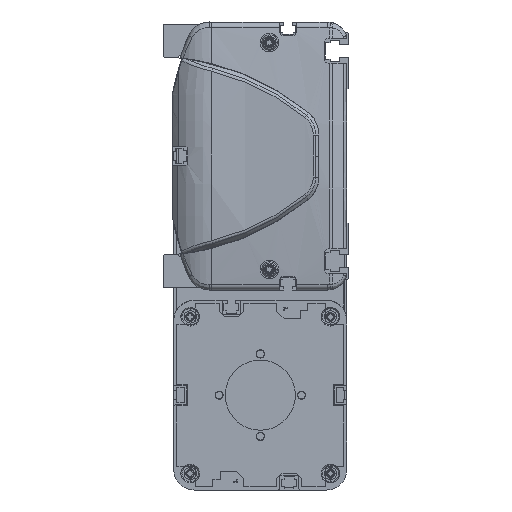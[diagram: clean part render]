
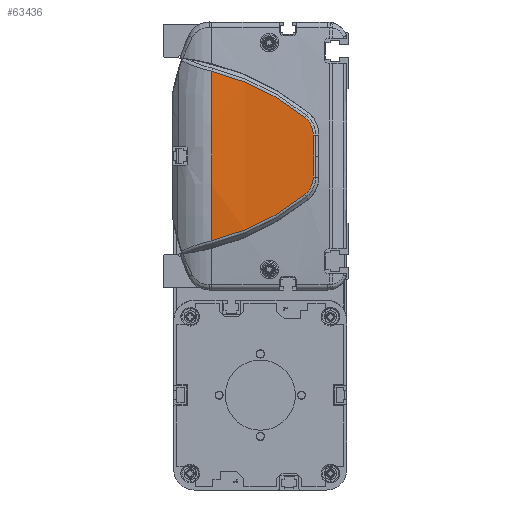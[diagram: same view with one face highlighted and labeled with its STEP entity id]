
A CAD part, left-side view. The second image highlights one B-rep face of the part: STEP entity #63436.
In plain terms, the highlighted cylindrical face has radius 500 mm (diameter 1000 mm), a partial arc.
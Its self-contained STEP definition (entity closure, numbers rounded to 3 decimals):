
#59688=CARTESIAN_POINT('',(-714.,66.962,0.));
#59689=DIRECTION('',(0.,-1.,0.));
#59690=DIRECTION('',(-0.997,0.,0.082));
#59691=AXIS2_PLACEMENT_3D('',#59688,#59689,#59690);
#60571=CARTESIAN_POINT('',(-1213.648,21.913,
-18.759));
#60572=CARTESIAN_POINT('',(-1213.449,28.504,
-24.058));
#60573=CARTESIAN_POINT('',(-1212.934,42.795,
-33.27));
#60574=CARTESIAN_POINT('',(-1212.471,58.756,
-39.127));
#60575=CARTESIAN_POINT('',(-1212.306,66.962,
-41.121));
#60577=CARTESIAN_POINT('',(-1212.306,66.962,
41.121));
#60578=CARTESIAN_POINT('',(-1212.471,58.756,
39.127));
#60579=CARTESIAN_POINT('',(-1212.934,42.795,
33.27));
#60580=CARTESIAN_POINT('',(-1213.449,28.504,
24.058));
#60581=CARTESIAN_POINT('',(-1213.648,21.913,
18.759));
#60583=CARTESIAN_POINT('',(-1213.648,21.913,
18.759));
#60584=CARTESIAN_POINT('',(-1213.686,20.635,
17.736));
#60585=CARTESIAN_POINT('',(-1213.779,18.536,
15.107));
#60586=CARTESIAN_POINT('',(-1213.863,17.752,
11.827));
#60587=CARTESIAN_POINT('',(-1213.896,17.724,
10.178));
#60589=CARTESIAN_POINT('',(-1213.896,17.724,
10.178));
#60590=CARTESIAN_POINT('',(-1213.92,17.707,
9.026));
#60591=CARTESIAN_POINT('',(-1213.959,17.667,
6.735));
#60592=CARTESIAN_POINT('',(-1213.993,17.58,
3.341));
#60593=CARTESIAN_POINT('',(-1214.,17.498,
1.108));
#60594=CARTESIAN_POINT('',(-1214.,17.449,
0.));
#60596=CARTESIAN_POINT('',(-1214.,17.449,
0.));
#60597=CARTESIAN_POINT('',(-1214.,17.498,
-1.108));
#60598=CARTESIAN_POINT('',(-1213.993,17.58,
-3.341));
#60599=CARTESIAN_POINT('',(-1213.959,17.667,
-6.734));
#60600=CARTESIAN_POINT('',(-1213.92,17.707,
-9.028));
#60601=CARTESIAN_POINT('',(-1213.896,17.724,
-10.18));
#60603=CARTESIAN_POINT('',(-1213.896,17.724,
-10.18));
#60604=CARTESIAN_POINT('',(-1213.863,17.752,
-11.828));
#60605=CARTESIAN_POINT('',(-1213.779,18.537,
-15.109));
#60606=CARTESIAN_POINT('',(-1213.686,20.635,
-17.736));
#60607=CARTESIAN_POINT('',(-1213.648,21.913,
-18.759));
#61258=VERTEX_POINT('',#60571);
#61259=VERTEX_POINT('',#60575);
#61260=CARTESIAN_POINT('',(-1212.306,66.962,
41.121));
#61261=VERTEX_POINT('',#61260);
#61262=VERTEX_POINT('',#60581);
#61263=VERTEX_POINT('',#60587);
#61264=VERTEX_POINT('',#60594);
#61265=VERTEX_POINT('',#60601);
#63417=CARTESIAN_POINT('',(-714.,8.606,0.));
#63418=DIRECTION('',(0.,1.,0.));
#63419=DIRECTION('',(1.,0.,0.));
#63420=AXIS2_PLACEMENT_3D('',#63417,#63418,#63419);
#63421=CYLINDRICAL_SURFACE('',#63420,500.);
#63423=ORIENTED_EDGE('',*,*,#63422,.T.);
#63424=ORIENTED_EDGE('',*,*,#62060,.F.);
#63426=ORIENTED_EDGE('',*,*,#63425,.T.);
#63428=ORIENTED_EDGE('',*,*,#63427,.T.);
#63430=ORIENTED_EDGE('',*,*,#63429,.T.);
#63432=ORIENTED_EDGE('',*,*,#63431,.T.);
#63433=ORIENTED_EDGE('',*,*,#63407,.T.);
#63434=EDGE_LOOP('',(#63423,#63424,#63426,#63428,#63430,#63432,#63433));
#63435=FACE_OUTER_BOUND('',#63434,.F.);
#63436=ADVANCED_FACE('',(#63435),#63421,.T.);
#59692=CIRCLE('',#59691,500.);
#60576=B_SPLINE_CURVE_WITH_KNOTS('',3,(#60571,#60572,#60573,#60574,#60575),
.UNSPECIFIED.,.F.,.F.,(4,1,4),(0.,0.5,1.),.UNSPECIFIED.);
#60582=B_SPLINE_CURVE_WITH_KNOTS('',3,(#60577,#60578,#60579,#60580,#60581),
.UNSPECIFIED.,.F.,.F.,(4,1,4),(0.,0.5,1.),.UNSPECIFIED.);
#60588=B_SPLINE_CURVE_WITH_KNOTS('',3,(#60583,#60584,#60585,#60586,#60587),
.UNSPECIFIED.,.F.,.F.,(4,1,4),(0.,0.5,1.),.UNSPECIFIED.);
#60595=B_SPLINE_CURVE_WITH_KNOTS('',3,(#60589,#60590,#60591,#60592,#60593,
#60594),.UNSPECIFIED.,.F.,.F.,(4,1,1,4),(0.,0.333,
0.667,1.),.UNSPECIFIED.);
#60602=B_SPLINE_CURVE_WITH_KNOTS('',3,(#60596,#60597,#60598,#60599,#60600,
#60601),.UNSPECIFIED.,.F.,.F.,(4,1,1,4),(0.,0.333,
0.667,1.),.UNSPECIFIED.);
#60608=B_SPLINE_CURVE_WITH_KNOTS('',3,(#60603,#60604,#60605,#60606,#60607),
.UNSPECIFIED.,.F.,.F.,(4,1,4),(0.,0.5,1.),.UNSPECIFIED.);
#62060=EDGE_CURVE('',#61261,#61259,#59692,.T.);
#63407=EDGE_CURVE('',#61265,#61258,#60608,.T.);
#63422=EDGE_CURVE('',#61258,#61259,#60576,.T.);
#63425=EDGE_CURVE('',#61261,#61262,#60582,.T.);
#63427=EDGE_CURVE('',#61262,#61263,#60588,.T.);
#63429=EDGE_CURVE('',#61263,#61264,#60595,.T.);
#63431=EDGE_CURVE('',#61264,#61265,#60602,.T.);
